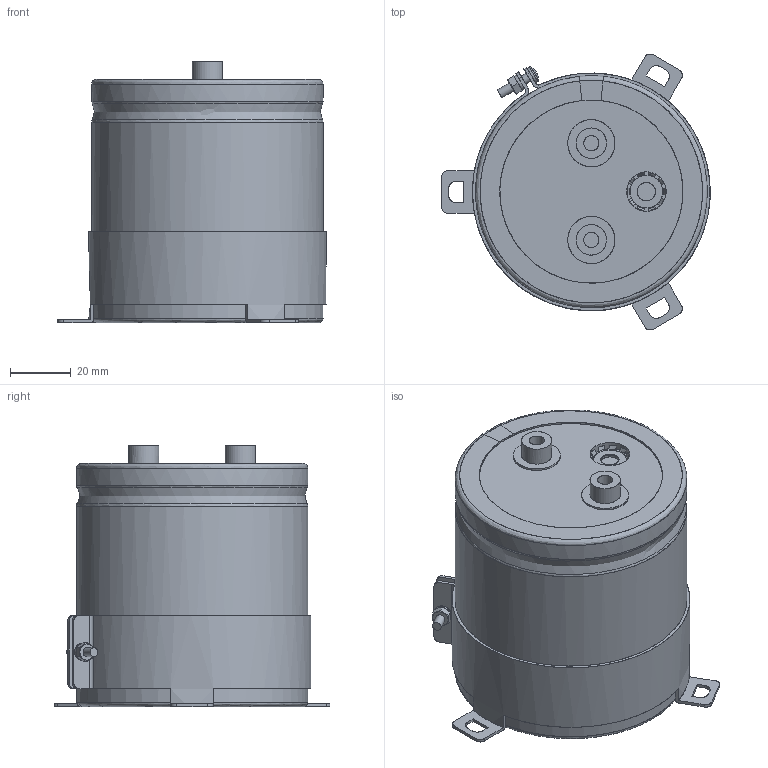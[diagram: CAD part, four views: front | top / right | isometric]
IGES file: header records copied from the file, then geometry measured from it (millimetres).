
Start section: JAMA-IS VERSION  1.0
Bounding box: 88.3 x 90.75 x 86 mm (x, y, z)
Surface area: 87864.4 mm2 (no closed solid volume)
Topology: 0 solids, 0 shells, 259 faces, 4448 edges, 4417 vertices
Faces by surface type: bspline 259
